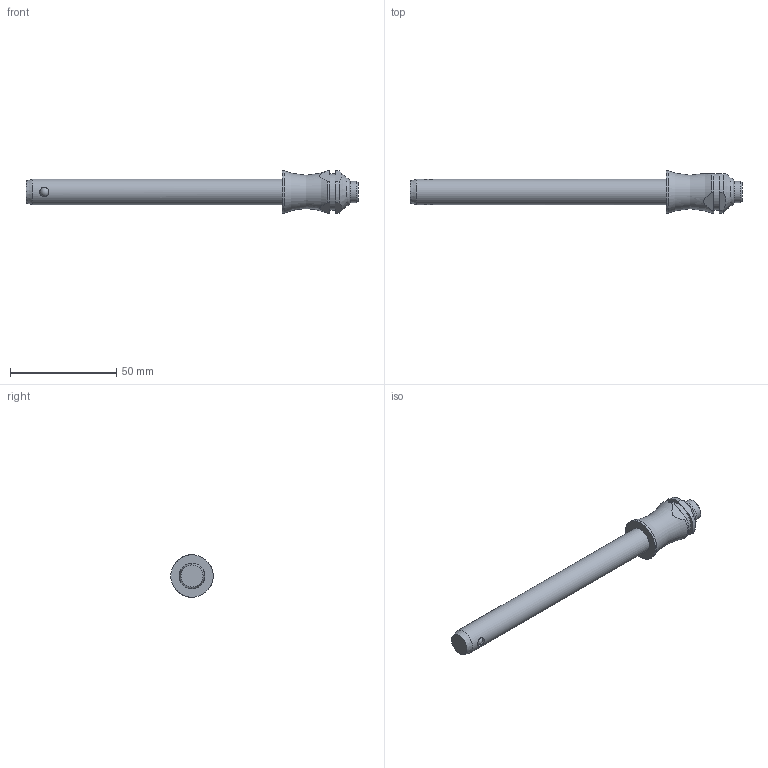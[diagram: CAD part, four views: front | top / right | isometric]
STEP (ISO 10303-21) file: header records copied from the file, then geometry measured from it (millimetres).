
FILE_DESCRIPTION( ( 'STEP AP203' ), '1' );
FILE_NAME( 'C:/Temp/Ganter_Step_05_03_2020/data/3_1/gn113_3/Stainless Steel-Ball lock pin GN 113.3-12-110 (activated).stp', '2020-03-12T08:18:49', ( 'License CC BY-ND 4.0' ), ( 'CADENAS' ), ' ', 'PARTsolutions', ' ' );
FILE_SCHEMA( ( 'CONFIG_CONTROL_DESIGN' ) );
Length unit declared in the file: millimetre
Products named in the file (1): _Stainless Steel-Ball lock pin GN 113.3-12-110 (activated)
Bounding box: 156.35 x 20 x 20 mm (x, y, z)
Volume: 21244.8 mm3; surface area: 7063.3 mm2
Topology: 1 solids, 1 shells, 30 faces, 72 edges, 45 vertices
Faces by surface type: cylinder 12, plane 11, cone 3, torus 2, sphere 2
Full cylindrical faces by diameter (mm): 4.4 x2, 10 x1, 12 x1, 17 x1, 20 x1
Entity records: 1010 total; most frequent: CARTESIAN_POINT 360, DIRECTION 130, ORIENTED_EDGE 102, AXIS2_PLACEMENT_3D 56, EDGE_CURVE 51, EDGE_LOOP 46, VERTEX_POINT 40, FACE_OUTER_BOUND 38
